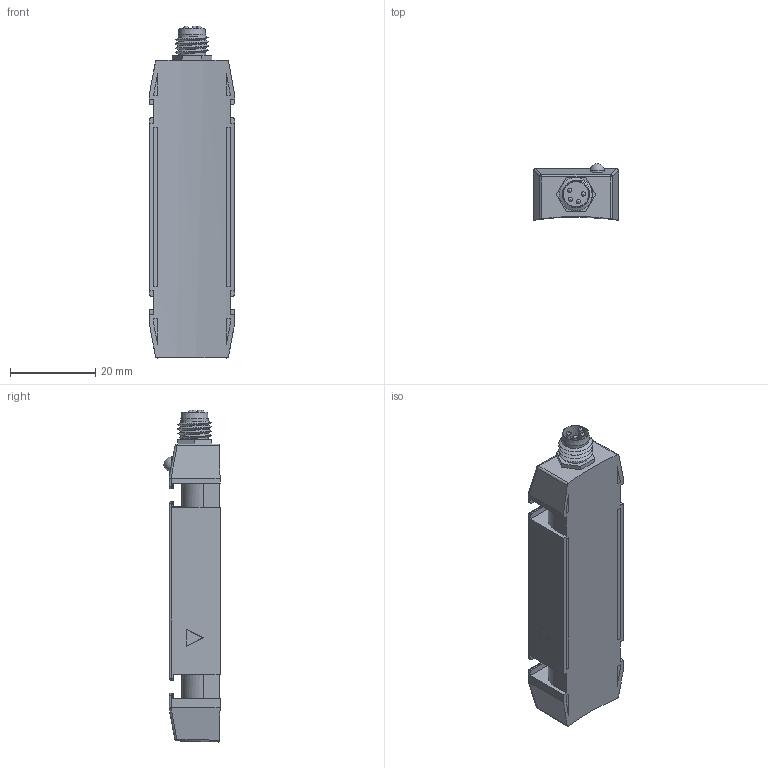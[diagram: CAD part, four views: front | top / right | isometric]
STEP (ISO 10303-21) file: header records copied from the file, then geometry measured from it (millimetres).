
FILE_DESCRIPTION(/* description */ (''),/* implementation_level */ '2;1');
FILE_NAME(/* name */ 'F:\HUAYIFENG\01)HUAYIFENG_宣传文件\01)HUAYIFENG_\X2\5BA34F2065874EF6\X0\_产品资料整合\03)产品3D文档\05)产品3D_接近系列_K12_2019\管型接近\IST-14_C1_3D.stp',/* time_stamp */ '2019-05-09T17:44:14+08:00',/* author */ ('fengjiarun'),/* organization */ (''),/* preprocessor_version */ 'ST-DEVELOPER v16.5',/* originating_system */ 'Autodesk Inventor 2017',/* authorisation */ '');
FILE_SCHEMA (('AUTOMOTIVE_DESIGN { 1 0 10303 214 3 1 1 }'));
Length unit declared in the file: millimetre
Products named in the file (1): 零件10
Bounding box: 20.2 x 13.21 x 77.99 mm (x, y, z)
Volume: 14815.2 mm3; surface area: 5502.6 mm2
Topology: 1 solids, 2 shells, 149 faces, 395 edges, 248 vertices
Faces by surface type: plane 69, cylinder 52, sphere 17, bspline 8, cone 3
Full cylindrical faces by diameter (mm): 1 x4, 5.95 x1, 6 x1, 6.1 x1, 6.4 x5
Entity records: 6460 total; most frequent: CARTESIAN_POINT 3035, DIRECTION 693, ORIENTED_EDGE 678, EDGE_CURVE 339, AXIS2_PLACEMENT_3D 243, VERTEX_POINT 223, LINE 207, VECTOR 207
